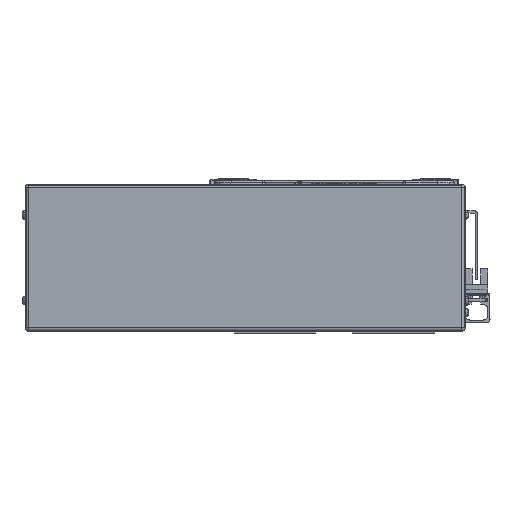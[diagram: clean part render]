
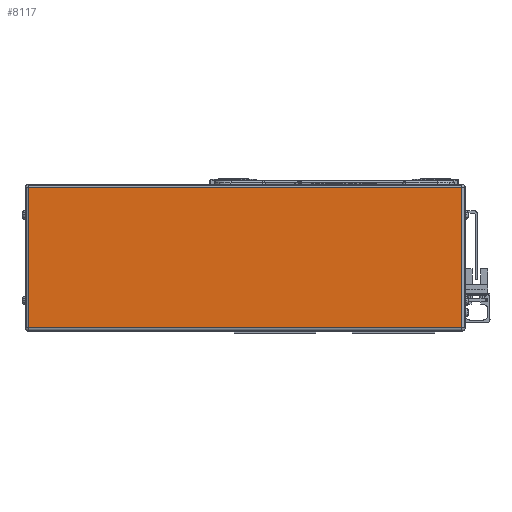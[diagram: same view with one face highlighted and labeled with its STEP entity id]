
A CAD part, left-side view. The second image highlights one B-rep face of the part: STEP entity #8117.
In plain terms, the highlighted planar face has unit normal (-1, 0, 0).
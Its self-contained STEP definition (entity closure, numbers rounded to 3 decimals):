
#8117=ADVANCED_FACE('',(#16394),#16395,.F.);
#16394=FACE_OUTER_BOUND('',#26037,.T.);
#16395=PLANE('',#26038);
#26037=EDGE_LOOP('',(#48931,#48932,#48933,#48934));
#26038=AXIS2_PLACEMENT_3D('',#48935,#48936,#48937);
#48931=ORIENTED_EDGE('',*,*,#51649,.T.);
#48932=ORIENTED_EDGE('',*,*,#54122,.T.);
#48933=ORIENTED_EDGE('',*,*,#58072,.T.);
#48934=ORIENTED_EDGE('',*,*,#58344,.T.);
#48935=CARTESIAN_POINT('',(-45.,180.5,0.));
#48936=DIRECTION('',(1.0,0.,0.));
#48937=DIRECTION('',(0.,0.,1.0));
#51649=EDGE_CURVE('',#61732,#61730,#61733,.T.);
#54122=EDGE_CURVE('',#61730,#65870,#65872,.T.);
#58072=EDGE_CURVE('',#65870,#66054,#71467,.T.);
#58344=EDGE_CURVE('',#66054,#61732,#71808,.T.);
#61730=VERTEX_POINT('',#76062);
#61732=VERTEX_POINT('',#76064);
#61733=LINE('',#76065,#76066);
#65870=VERTEX_POINT('',#81791);
#65872=LINE('',#81793,#81794);
#66054=VERTEX_POINT('',#82078);
#71467=LINE('',#89813,#89814);
#71808=LINE('',#90285,#90286);
#76062=CARTESIAN_POINT('',(-45.,178.5,-41.));
#76064=CARTESIAN_POINT('',(-45.,178.5,41.));
#76065=CARTESIAN_POINT('',(-45.,178.5,0.));
#76066=VECTOR('',#94214,10.0);
#81791=CARTESIAN_POINT('',(-45.,-74.5,-41.));
#81793=CARTESIAN_POINT('',(-45.,180.5,-41.));
#81794=VECTOR('',#97568,10.0);
#82078=CARTESIAN_POINT('',(-45.,-74.5,41.));
#89813=CARTESIAN_POINT('',(-45.,-74.5,0.));
#89814=VECTOR('',#102532,10.0);
#90285=CARTESIAN_POINT('',(-45.,180.5,41.));
#90286=VECTOR('',#102852,10.0);
#94214=DIRECTION('',(0.,0.,-1.0));
#97568=DIRECTION('',(0.,-1.0,0.));
#102532=DIRECTION('',(0.,0.,1.0));
#102852=DIRECTION('',(0.,1.0,0.));
